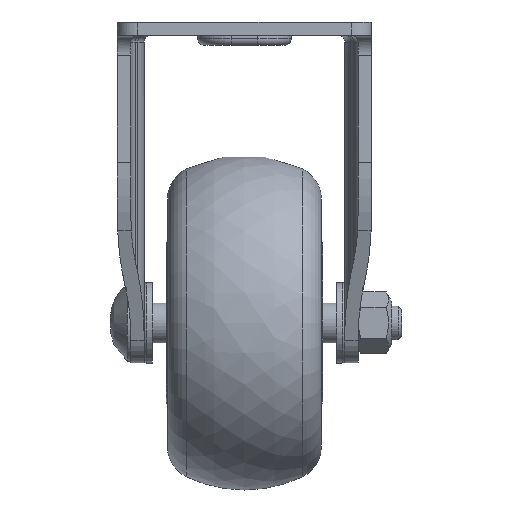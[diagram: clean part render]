
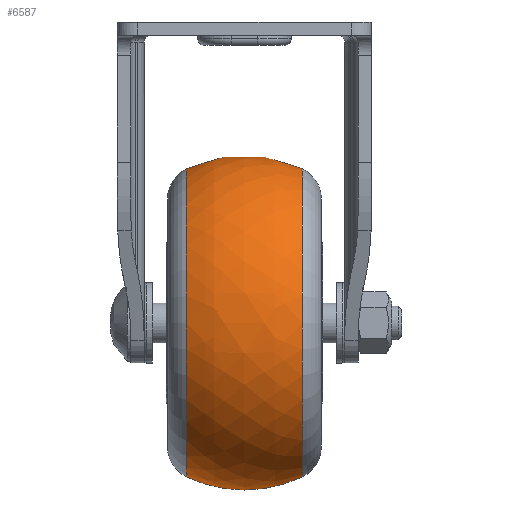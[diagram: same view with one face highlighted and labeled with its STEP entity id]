
A CAD part, left-side view. The second image highlights one B-rep face of the part: STEP entity #6587.
In plain terms, the highlighted free-form (B-spline) face has degree [2, 2] with [3, 9] control points.
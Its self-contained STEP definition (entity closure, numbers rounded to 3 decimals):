
#224=(
BOUNDED_SURFACE()
B_SPLINE_SURFACE(2,2,((#13997,#13998,#13999,#14000,#14001,#14002,#14003,
#14004,#14005),(#14006,#14007,#14008,#14009,#14010,#14011,#14012,#14013,
#14014),(#14015,#14016,#14017,#14018,#14019,#14020,#14021,#14022,#14023)),
 .UNSPECIFIED.,.F.,.T.,.F.)
B_SPLINE_SURFACE_WITH_KNOTS((3,3),(3,2,2,2,3),(-0.448,0.448),
(-3.142,-1.571,0.,1.571,3.142),
 .UNSPECIFIED.)
GEOMETRIC_REPRESENTATION_ITEM()
RATIONAL_B_SPLINE_SURFACE(((1.,0.707,1.,0.707,1.,
0.707,1.,0.707,1.),(0.901,0.637,
0.901,0.637,0.901,0.637,
0.901,0.637,0.901),(1.,0.707,
1.,0.707,1.,0.707,1.,0.707,1.)))
REPRESENTATION_ITEM('')
SURFACE()
);
#749=FACE_OUTER_BOUND('',#1148,.T.);
#1148=EDGE_LOOP('',(#6001,#6002,#6003,#6004,#6005,#6006));
#2564=CIRCLE('',#7153,23.025);
#2568=CIRCLE('',#7157,23.025);
#2569=CIRCLE('',#7158,23.025);
#2570=CIRCLE('',#7159,23.025);
#2571=CIRCLE('',#7160,20.);
#3205=VERTEX_POINT('',#13988);
#3206=VERTEX_POINT('',#13989);
#3209=VERTEX_POINT('',#14024);
#3210=VERTEX_POINT('',#14025);
#4148=EDGE_CURVE('',#3205,#3206,#2564,.T.);
#4152=EDGE_CURVE('',#3206,#3205,#2568,.T.);
#4153=EDGE_CURVE('',#3209,#3210,#2569,.T.);
#4154=EDGE_CURVE('',#3210,#3209,#2570,.T.);
#4155=EDGE_CURVE('',#3210,#3206,#2571,.T.);
#6001=ORIENTED_EDGE('',*,*,#4153,.F.);
#6002=ORIENTED_EDGE('',*,*,#4154,.F.);
#6003=ORIENTED_EDGE('',*,*,#4155,.T.);
#6004=ORIENTED_EDGE('',*,*,#4148,.F.);
#6005=ORIENTED_EDGE('',*,*,#4152,.F.);
#6006=ORIENTED_EDGE('',*,*,#4155,.F.);
#6587=ADVANCED_FACE('',(#749),#224,.F.);
#7153=AXIS2_PLACEMENT_3D('',#13990,#8616,#8617);
#7157=AXIS2_PLACEMENT_3D('',#13996,#8624,#8625);
#7158=AXIS2_PLACEMENT_3D('',#14026,#8626,#8627);
#7159=AXIS2_PLACEMENT_3D('',#14027,#8628,#8629);
#7160=AXIS2_PLACEMENT_3D('',#14028,#8630,#8631);
#8616=DIRECTION('center_axis',(1.,0.,0.));
#8617=DIRECTION('ref_axis',(0.,0.,
1.));
#8624=DIRECTION('center_axis',(1.,0.,0.));
#8625=DIRECTION('ref_axis',(0.,0.,
1.));
#8626=DIRECTION('center_axis',(-1.,0.,0.));
#8627=DIRECTION('ref_axis',(0.,0.,
1.));
#8628=DIRECTION('center_axis',(-1.,0.,0.));
#8629=DIRECTION('ref_axis',(0.,0.,
1.));
#8630=DIRECTION('center_axis',(0.,1.,0.));
#8631=DIRECTION('ref_axis',(0.,0.,
1.));
#13988=CARTESIAN_POINT('',(-0.438,11.853,-31.149));
#13989=CARTESIAN_POINT('',(-0.438,11.853,14.9));
#13990=CARTESIAN_POINT('Origin',(-0.438,11.853,-8.125));
#13996=CARTESIAN_POINT('Origin',(-0.438,11.853,-8.125));
#13997=CARTESIAN_POINT('Ctrl Pts',(-0.438,11.853,
14.9));
#13998=CARTESIAN_POINT('Ctrl Pts',(-0.438,34.878,
14.9));
#13999=CARTESIAN_POINT('Ctrl Pts',(-0.438,34.878,
-8.125));
#14000=CARTESIAN_POINT('Ctrl Pts',(-0.438,34.878,
-31.149));
#14001=CARTESIAN_POINT('Ctrl Pts',(-0.438,11.853,
-31.149));
#14002=CARTESIAN_POINT('Ctrl Pts',(-0.438,-11.172,
-31.149));
#14003=CARTESIAN_POINT('Ctrl Pts',(-0.438,-11.172,
-8.125));
#14004=CARTESIAN_POINT('Ctrl Pts',(-0.438,-11.172,
14.9));
#14005=CARTESIAN_POINT('Ctrl Pts',(-0.438,11.853,
14.9));
#14006=CARTESIAN_POINT('Ctrl Pts',(-9.105,11.853,19.067));
#14007=CARTESIAN_POINT('Ctrl Pts',(-9.105,39.045,19.067));
#14008=CARTESIAN_POINT('Ctrl Pts',(-9.105,39.045,-8.125));
#14009=CARTESIAN_POINT('Ctrl Pts',(-9.105,39.045,-35.317));
#14010=CARTESIAN_POINT('Ctrl Pts',(-9.105,11.853,-35.317));
#14011=CARTESIAN_POINT('Ctrl Pts',(-9.105,-15.339,-35.317));
#14012=CARTESIAN_POINT('Ctrl Pts',(-9.105,-15.339,-8.125));
#14013=CARTESIAN_POINT('Ctrl Pts',(-9.105,-15.339,19.067));
#14014=CARTESIAN_POINT('Ctrl Pts',(-9.105,11.853,19.067));
#14015=CARTESIAN_POINT('Ctrl Pts',(-17.771,11.853,14.9));
#14016=CARTESIAN_POINT('Ctrl Pts',(-17.771,34.878,14.9));
#14017=CARTESIAN_POINT('Ctrl Pts',(-17.771,34.878,-8.125));
#14018=CARTESIAN_POINT('Ctrl Pts',(-17.771,34.878,-31.149));
#14019=CARTESIAN_POINT('Ctrl Pts',(-17.771,11.853,-31.149));
#14020=CARTESIAN_POINT('Ctrl Pts',(-17.771,-11.172,
-31.149));
#14021=CARTESIAN_POINT('Ctrl Pts',(-17.771,-11.172,
-8.125));
#14022=CARTESIAN_POINT('Ctrl Pts',(-17.771,-11.172,
14.9));
#14023=CARTESIAN_POINT('Ctrl Pts',(-17.771,11.853,14.9));
#14024=CARTESIAN_POINT('',(-17.771,11.853,-31.149));
#14025=CARTESIAN_POINT('',(-17.771,11.853,14.9));
#14026=CARTESIAN_POINT('Origin',(-17.771,11.853,-8.125));
#14027=CARTESIAN_POINT('Origin',(-17.771,11.853,-8.125));
#14028=CARTESIAN_POINT('Origin',(-9.105,11.853,-3.125));
